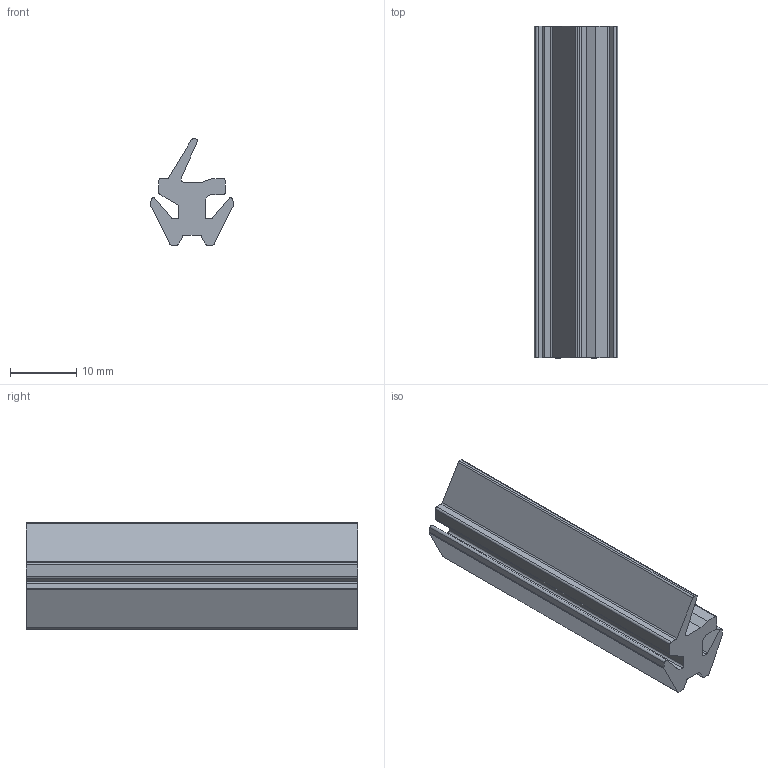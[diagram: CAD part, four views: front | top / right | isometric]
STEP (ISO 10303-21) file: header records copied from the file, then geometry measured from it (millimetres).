
FILE_DESCRIPTION(('STEP AP214'),'1');
FILE_NAME('DP40A-.stp','2017-07-25T02:34:34',(' '),(' '),'Spatial InterOp 3D',' ',' ');
FILE_SCHEMA(('automotive_design'));
Length unit declared in the file: millimetre
Products named in the file (1): DP40A-
Bounding box: 12.57 x 50 x 16 mm (x, y, z)
Volume: 4341.7 mm3; surface area: 3821.2 mm2
Topology: 1 solids, 1 shells, 52 faces, 150 edges, 100 vertices
Faces by surface type: plane 29, cylinder 23
Entity records: 2152 total; most frequent: CARTESIAN_POINT 303, DIRECTION 302, ORIENTED_EDGE 300, EDGE_CURVE 150, LINE 104, VECTOR 104, VERTEX_POINT 100, AXIS2_PLACEMENT_3D 99
